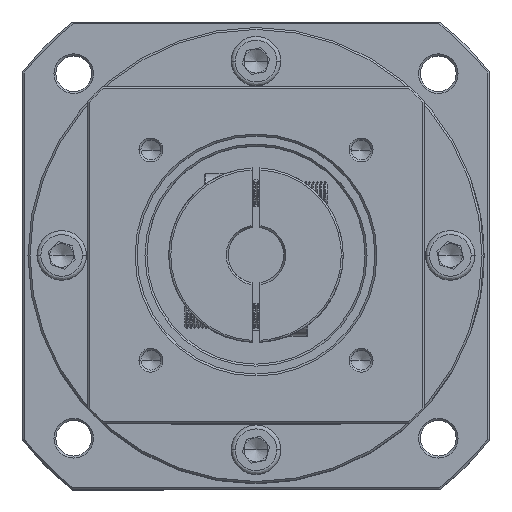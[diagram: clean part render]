
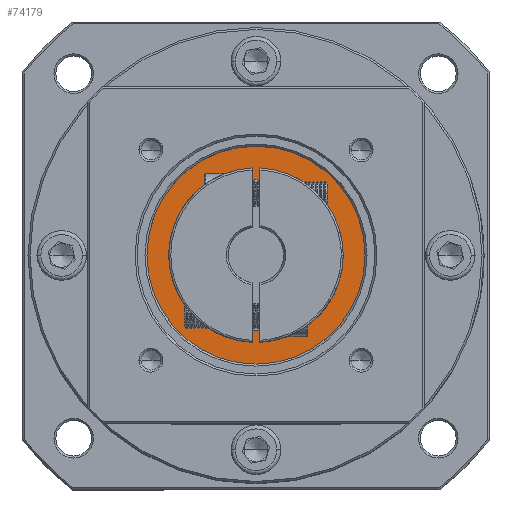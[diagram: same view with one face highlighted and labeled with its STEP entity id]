
A CAD part, top view. The second image highlights one B-rep face of the part: STEP entity #74179.
In plain terms, the highlighted planar face has unit normal (0, 0, 1).
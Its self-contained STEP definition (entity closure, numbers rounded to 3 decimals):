
#6890 = CARTESIAN_POINT ( 'NONE',  ( -90.264, 35.48, 12.448 ) ) ;
#12503 = CIRCLE ( 'NONE', #106985, 27.5 ) ;
#15737 = DIRECTION ( 'NONE',  ( -1., 0., 0. ) ) ;
#18969 = CARTESIAN_POINT ( 'NONE',  ( -90.264, 35.48, 12.448 ) ) ;
#26432 = EDGE_CURVE ( 'NONE', #35607, #28689, #111833, .T. ) ;
#27531 = AXIS2_PLACEMENT_3D ( 'NONE', #6890, #68239, #15737 ) ;
#27809 = DIRECTION ( 'NONE',  ( -1., 0., 0. ) ) ;
#28689 = VERTEX_POINT ( 'NONE', #103868 ) ;
#29166 = CARTESIAN_POINT ( 'NONE',  ( -71.264, 35.48, 12.448 ) ) ;
#30041 = EDGE_CURVE ( 'NONE', #109749, #86420, #59771, .T. ) ;
#31696 = DIRECTION ( 'NONE',  ( 0., 0., 1. ) ) ;
#35607 = VERTEX_POINT ( 'NONE', #107759 ) ;
#39015 = CARTESIAN_POINT ( 'NONE',  ( -90.264, 35.48, 12.448 ) ) ;
#40208 = AXIS2_PLACEMENT_3D ( 'NONE', #84093, #31696, #92894 ) ;
#41130 = EDGE_CURVE ( 'NONE', #86420, #109749, #108991, .T. ) ;
#46444 = FACE_BOUND ( 'NONE', #65463, .T. ) ;
#47824 = DIRECTION ( 'NONE',  ( -1., 0., 0. ) ) ;
#51194 = CARTESIAN_POINT ( 'NONE',  ( -90.264, 35.48, 12.448 ) ) ;
#54541 = ORIENTED_EDGE ( 'NONE', *, *, #87092, .T. ) ;
#59771 = CIRCLE ( 'NONE', #69796, 19. ) ;
#59992 = DIRECTION ( 'NONE',  ( -1., 0., 0. ) ) ;
#65463 = EDGE_LOOP ( 'NONE', ( #105311, #85212 ) ) ;
#66955 = FACE_OUTER_BOUND ( 'NONE', #74194, .T. ) ;
#68239 = DIRECTION ( 'NONE',  ( 0., 0., -1. ) ) ;
#69796 = AXIS2_PLACEMENT_3D ( 'NONE', #51194, #112380, #59992 ) ;
#74179 = ADVANCED_FACE ( 'NONE', ( #66955, #46444 ), #101311, .T. ) ;
#74194 = EDGE_LOOP ( 'NONE', ( #54541, #98250 ) ) ;
#80199 = DIRECTION ( 'NONE',  ( 0., 0., 1. ) ) ;
#84093 = CARTESIAN_POINT ( 'NONE',  ( -90.264, 35.48, 12.448 ) ) ;
#84155 = CARTESIAN_POINT ( 'NONE',  ( -109.264, 35.48, 12.448 ) ) ;
#85212 = ORIENTED_EDGE ( 'NONE', *, *, #41130, .T. ) ;
#86420 = VERTEX_POINT ( 'NONE', #29166 ) ;
#87092 = EDGE_CURVE ( 'NONE', #28689, #35607, #12503, .T. ) ;
#92894 = DIRECTION ( 'NONE',  ( 1., 0., 0. ) ) ;
#94233 = AXIS2_PLACEMENT_3D ( 'NONE', #18969, #80199, #27809 ) ;
#98250 = ORIENTED_EDGE ( 'NONE', *, *, #26432, .T. ) ;
#100173 = DIRECTION ( 'NONE',  ( 0., 0., 1. ) ) ;
#101311 = PLANE ( 'NONE',  #40208 ) ;
#103868 = CARTESIAN_POINT ( 'NONE',  ( -117.764, 35.48, 12.448 ) ) ;
#105311 = ORIENTED_EDGE ( 'NONE', *, *, #30041, .T. ) ;
#106985 = AXIS2_PLACEMENT_3D ( 'NONE', #39015, #100173, #47824 ) ;
#107759 = CARTESIAN_POINT ( 'NONE',  ( -62.764, 35.48, 12.448 ) ) ;
#108991 = CIRCLE ( 'NONE', #27531, 19. ) ;
#109749 = VERTEX_POINT ( 'NONE', #84155 ) ;
#111833 = CIRCLE ( 'NONE', #94233, 27.5 ) ;
#112380 = DIRECTION ( 'NONE',  ( 0., 0., -1. ) ) ;
